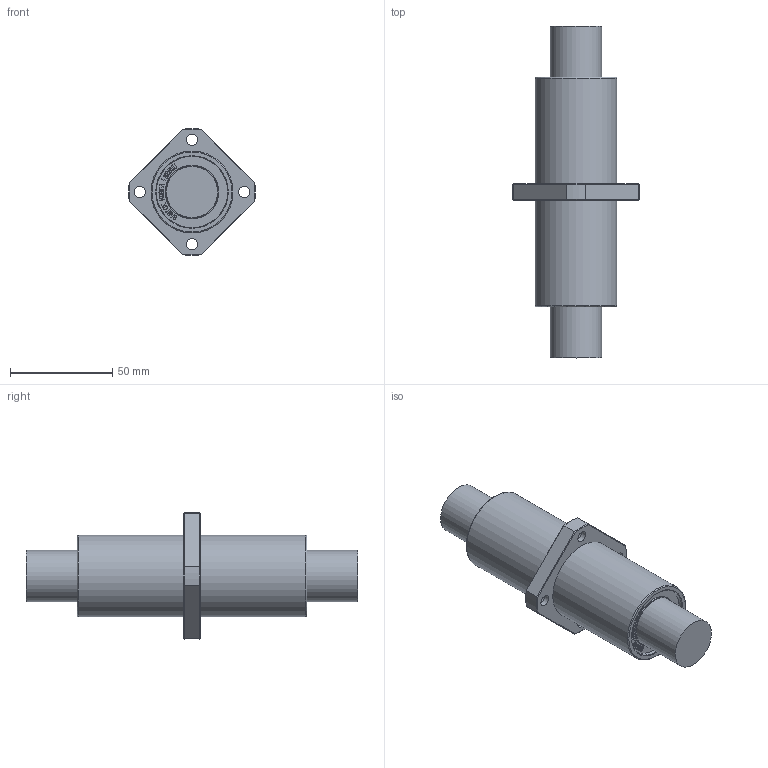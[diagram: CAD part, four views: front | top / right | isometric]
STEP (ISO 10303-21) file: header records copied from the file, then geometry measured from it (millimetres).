
FILE_DESCRIPTION(/* description */ (''),/* implementation_level */ '2;1');
FILE_NAME(/* name */ 'W:\(01) 2024년 홈페이지 CAD파일 최신화\LMEKM\IPT\LMEKM25UU.stp',/* time_stamp */ '2025-01-25T13:17:03+09:00',/* author */ ('서우현'),/* organization */ (''),/* preprocessor_version */ 'ST-DEVELOPER v17.2',/* originating_system */ 'Autodesk Inventor 2019',/* authorisation */ '');
FILE_SCHEMA (('AUTOMOTIVE_DESIGN { 1 0 10303 214 3 1 1 }'));
Length unit declared in the file: millimetre
Products named in the file (1): LM5
Bounding box: 61.92 x 162 x 61.92 mm (x, y, z)
Volume: 170744.5 mm3; surface area: 24657.4 mm2
Topology: 1 solids, 1 shells, 890 faces, 2510 edges, 1676 vertices
Faces by surface type: bspline 612, plane 246, cylinder 18, cone 12, torus 2
Full cylindrical faces by diameter (mm): 5.5 x4, 9.5 x4, 25 x2, 34.8 x2, 40 x2
Entity records: 30618 total; most frequent: CARTESIAN_POINT 11309, ORIENTED_EDGE 5020, EDGE_CURVE 2510, DIRECTION 1910, VERTEX_POINT 1676, B_SPLINE_CURVE_WITH_KNOTS 1224, LINE 1188, VECTOR 1188
